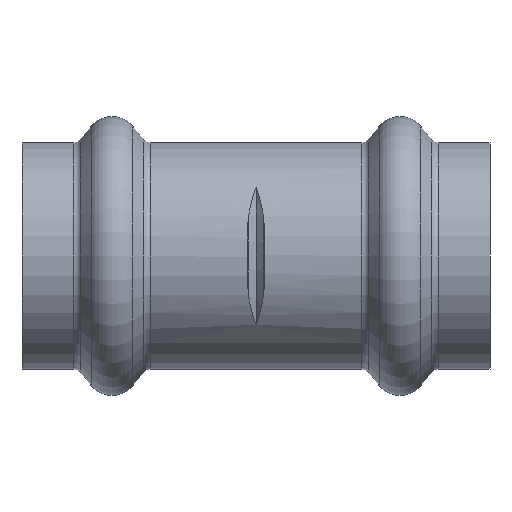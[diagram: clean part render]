
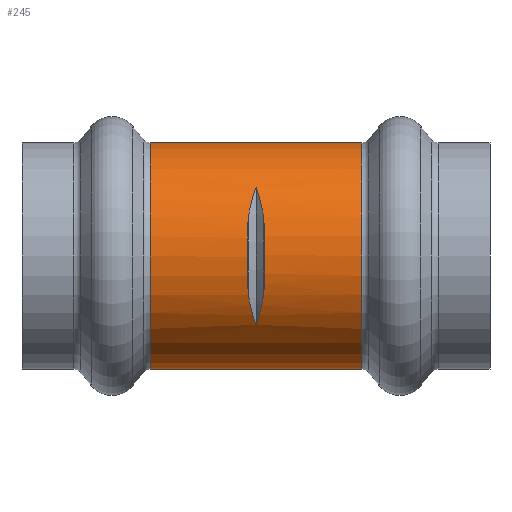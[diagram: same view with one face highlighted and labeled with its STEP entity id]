
A CAD part, front view. The second image highlights one B-rep face of the part: STEP entity #245.
In plain terms, the highlighted cylindrical face has radius 12.6 mm (diameter 25.2 mm), a partial arc.
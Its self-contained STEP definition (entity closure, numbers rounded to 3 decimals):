
#10 = CARTESIAN_POINT ( 'NONE',  ( -0.369, -10.784, 6.641 ) ) ;
#19 = CARTESIAN_POINT ( 'NONE',  ( 0., -10.009, 7.654 ) ) ;
#36 = CARTESIAN_POINT ( 'NONE',  ( 0., -10.009, 7.654 ) ) ;
#56 = AXIS2_PLACEMENT_3D ( 'NONE', #1790, #1653, #310 ) ;
#109 = VERTEX_POINT ( 'NONE', #910 ) ;
#123 = CARTESIAN_POINT ( 'NONE',  ( -16.83, 0., -12.6 ) ) ;
#132 = CARTESIAN_POINT ( 'NONE',  ( 0.859, -11.849, -4.286 ) ) ;
#180 = CARTESIAN_POINT ( 'NONE',  ( 0.369, -10.784, -6.641 ) ) ;
#184 = EDGE_CURVE ( 'NONE', #109, #374, #1209, .T. ) ;
#188 = B_SPLINE_CURVE_WITH_KNOTS ( 'NONE', 3,
 ( #805, #327, #1937, #582 ),
 .UNSPECIFIED., .F., .F.,
 ( 4, 4 ),
 ( 0., 0.004 ),
 .UNSPECIFIED. ) ;
#202 = VERTEX_POINT ( 'NONE', #132 ) ;
#204 = CARTESIAN_POINT ( 'NONE',  ( -0.369, -10.784, -6.641 ) ) ;
#231 = CARTESIAN_POINT ( 'NONE',  ( 11.736, 0., 0. ) ) ;
#245 = ADVANCED_FACE ( 'NONE', ( #598, #1400 ), #1698, .T. ) ;
#249 = ORIENTED_EDGE ( 'NONE', *, *, #764, .T. ) ;
#252 = CARTESIAN_POINT ( 'NONE',  ( -16.83, 0., 12.6 ) ) ;
#267 = LINE ( 'NONE', #252, #1071 ) ;
#310 = DIRECTION ( 'NONE',  ( 0., 0., 1. ) ) ;
#323 = CARTESIAN_POINT ( 'NONE',  ( 11.736, 0., 12.6 ) ) ;
#326 = EDGE_LOOP ( 'NONE', ( #938, #1275, #249, #873 ) ) ;
#327 = CARTESIAN_POINT ( 'NONE',  ( 0.369, -10.784, 6.641 ) ) ;
#356 = CARTESIAN_POINT ( 'NONE',  ( 0.859, -11.849, -4.286 ) ) ;
#374 = VERTEX_POINT ( 'NONE', #1841 ) ;
#391 = DIRECTION ( 'NONE',  ( 0., 0., 1. ) ) ;
#394 = CARTESIAN_POINT ( 'NONE',  ( -0.859, -11.849, 4.286 ) ) ;
#454 = CARTESIAN_POINT ( 'NONE',  ( -0.654, -11.402, -5.521 ) ) ;
#468 = CIRCLE ( 'NONE', #1153, 12.6 ) ;
#495 = B_SPLINE_CURVE_WITH_KNOTS ( 'NONE', 3,
 ( #356, #999, #180, #503 ),
 .UNSPECIFIED., .F., .F.,
 ( 4, 4 ),
 ( 0., 0.004 ),
 .UNSPECIFIED. ) ;
#503 = CARTESIAN_POINT ( 'NONE',  ( 0., -10.009, -7.654 ) ) ;
#527 = CARTESIAN_POINT ( 'NONE',  ( -11.736, 0., 12.6 ) ) ;
#529 = CARTESIAN_POINT ( 'NONE',  ( -0.941, -12.285, 2.892 ) ) ;
#539 = CARTESIAN_POINT ( 'NONE',  ( -0.988, -12.535, 1.465 ) ) ;
#553 = ORIENTED_EDGE ( 'NONE', *, *, #1460, .T. ) ;
#578 = CARTESIAN_POINT ( 'NONE',  ( 1., -12.6, 0.362 ) ) ;
#582 = CARTESIAN_POINT ( 'NONE',  ( 0.859, -11.849, 4.286 ) ) ;
#598 = FACE_OUTER_BOUND ( 'NONE', #326, .T. ) ;
#613 = CARTESIAN_POINT ( 'NONE',  ( -0.906, -12.099, 3.595 ) ) ;
#618 = CARTESIAN_POINT ( 'NONE',  ( -1., -12.6, -0.362 ) ) ;
#627 = CARTESIAN_POINT ( 'NONE',  ( -0.859, -11.849, 4.286 ) ) ;
#659 = EDGE_CURVE ( 'NONE', #109, #1764, #468, .T. ) ;
#661 = CARTESIAN_POINT ( 'NONE',  ( -0.976, -12.474, -1.818 ) ) ;
#669 = CARTESIAN_POINT ( 'NONE',  ( -0.941, -12.285, -2.891 ) ) ;
#719 = CARTESIAN_POINT ( 'NONE',  ( -0.859, -11.849, -4.286 ) ) ;
#729 = ORIENTED_EDGE ( 'NONE', *, *, #1143, .T. ) ;
#745 = B_SPLINE_CURVE_WITH_KNOTS ( 'NONE', 3,
 ( #1049, #204, #454, #1058 ),
 .UNSPECIFIED., .F., .F.,
 ( 4, 4 ),
 ( 0., 0.004 ),
 .UNSPECIFIED. ) ;
#750 = VECTOR ( 'NONE', #1223, 1000. ) ;
#754 = CARTESIAN_POINT ( 'NONE',  ( -0.859, -11.849, 4.286 ) ) ;
#764 = EDGE_CURVE ( 'NONE', #1764, #865, #267, .T. ) ;
#793 = CARTESIAN_POINT ( 'NONE',  ( -0.906, -12.099, -3.594 ) ) ;
#799 = VERTEX_POINT ( 'NONE', #754 ) ;
#805 = CARTESIAN_POINT ( 'NONE',  ( 0., -10.009, 7.654 ) ) ;
#825 = ORIENTED_EDGE ( 'NONE', *, *, #1042, .T. ) ;
#865 = VERTEX_POINT ( 'NONE', #527 ) ;
#873 = ORIENTED_EDGE ( 'NONE', *, *, #1898, .T. ) ;
#900 = CARTESIAN_POINT ( 'NONE',  ( 1., -12.6, -0.741 ) ) ;
#904 = DIRECTION ( 'NONE',  ( 0., 0., -1. ) ) ;
#910 = CARTESIAN_POINT ( 'NONE',  ( 11.736, 0., -12.6 ) ) ;
#919 = ORIENTED_EDGE ( 'NONE', *, *, #1374, .T. ) ;
#938 = ORIENTED_EDGE ( 'NONE', *, *, #184, .F. ) ;
#952 = VERTEX_POINT ( 'NONE', #719 ) ;
#999 = CARTESIAN_POINT ( 'NONE',  ( 0.654, -11.402, -5.521 ) ) ;
#1012 = CARTESIAN_POINT ( 'NONE',  ( 0., -10.009, -7.654 ) ) ;
#1025 = B_SPLINE_CURVE_WITH_KNOTS ( 'NONE', 3,
 ( #1066, #1214, #1595, #1928, #1785, #1085, #578, #900, #1458, #1047, #1040, #1342 ),
 .UNSPECIFIED., .F., .F.,
 ( 4, 2, 2, 2, 2, 4 ),
 ( 0., 0.002, 0.003, 0.004, 0.007, 0.009 ),
 .UNSPECIFIED. ) ;
#1040 = CARTESIAN_POINT ( 'NONE',  ( 0.906, -12.099, -3.595 ) ) ;
#1042 = EDGE_CURVE ( 'NONE', #1160, #202, #1025, .T. ) ;
#1047 = CARTESIAN_POINT ( 'NONE',  ( 0.941, -12.285, -2.892 ) ) ;
#1049 = CARTESIAN_POINT ( 'NONE',  ( 0., -10.009, -7.654 ) ) ;
#1058 = CARTESIAN_POINT ( 'NONE',  ( -0.859, -11.849, -4.286 ) ) ;
#1066 = CARTESIAN_POINT ( 'NONE',  ( 0.859, -11.849, 4.286 ) ) ;
#1071 = VECTOR ( 'NONE', #1775, 1000. ) ;
#1085 = CARTESIAN_POINT ( 'NONE',  ( 0.997, -12.584, 0.73 ) ) ;
#1101 = CARTESIAN_POINT ( 'NONE',  ( 0.859, -11.849, 4.286 ) ) ;
#1104 = CARTESIAN_POINT ( 'NONE',  ( -0.859, -11.849, -4.286 ) ) ;
#1143 = EDGE_CURVE ( 'NONE', #202, #1256, #495, .T. ) ;
#1153 = AXIS2_PLACEMENT_3D ( 'NONE', #231, #1328, #391 ) ;
#1160 = VERTEX_POINT ( 'NONE', #1101 ) ;
#1191 = ORIENTED_EDGE ( 'NONE', *, *, #1768, .T. ) ;
#1208 = DIRECTION ( 'NONE',  ( 1., 0., 0. ) ) ;
#1209 = LINE ( 'NONE', #123, #750 ) ;
#1214 = CARTESIAN_POINT ( 'NONE',  ( 0.906, -12.099, 3.594 ) ) ;
#1223 = DIRECTION ( 'NONE',  ( -1., 0., 0. ) ) ;
#1256 = VERTEX_POINT ( 'NONE', #1012 ) ;
#1275 = ORIENTED_EDGE ( 'NONE', *, *, #659, .T. ) ;
#1324 = EDGE_LOOP ( 'NONE', ( #825, #729, #919, #553, #1473, #1191 ) ) ;
#1328 = DIRECTION ( 'NONE',  ( -1., 0., 0. ) ) ;
#1342 = CARTESIAN_POINT ( 'NONE',  ( 0.859, -11.849, -4.286 ) ) ;
#1374 = EDGE_CURVE ( 'NONE', #1256, #952, #745, .T. ) ;
#1394 = CARTESIAN_POINT ( 'NONE',  ( -0.997, -12.584, -0.73 ) ) ;
#1400 = FACE_BOUND ( 'NONE', #1324, .T. ) ;
#1409 = CARTESIAN_POINT ( 'NONE',  ( -1., -12.6, 0.741 ) ) ;
#1449 = CARTESIAN_POINT ( 'NONE',  ( -11.736, 0., 0. ) ) ;
#1458 = CARTESIAN_POINT ( 'NONE',  ( 0.988, -12.535, -1.465 ) ) ;
#1460 = EDGE_CURVE ( 'NONE', #952, #799, #1474, .T. ) ;
#1473 = ORIENTED_EDGE ( 'NONE', *, *, #1703, .T. ) ;
#1474 = B_SPLINE_CURVE_WITH_KNOTS ( 'NONE', 3,
 ( #1104, #793, #669, #661, #1763, #1394, #618, #1409, #539, #529, #613, #627 ),
 .UNSPECIFIED., .F., .F.,
 ( 4, 2, 2, 2, 2, 4 ),
 ( 0., 0.002, 0.003, 0.004, 0.007, 0.009 ),
 .UNSPECIFIED. ) ;
#1479 = CARTESIAN_POINT ( 'NONE',  ( -0.654, -11.402, 5.521 ) ) ;
#1511 = VERTEX_POINT ( 'NONE', #36 ) ;
#1573 = B_SPLINE_CURVE_WITH_KNOTS ( 'NONE', 3,
 ( #394, #1479, #10, #19 ),
 .UNSPECIFIED., .F., .F.,
 ( 4, 4 ),
 ( 0., 0.004 ),
 .UNSPECIFIED. ) ;
#1595 = CARTESIAN_POINT ( 'NONE',  ( 0.941, -12.285, 2.891 ) ) ;
#1653 = DIRECTION ( 'NONE',  ( -1., 0., 0. ) ) ;
#1698 = CYLINDRICAL_SURFACE ( 'NONE', #56, 12.6 ) ;
#1703 = EDGE_CURVE ( 'NONE', #799, #1511, #1573, .T. ) ;
#1708 = AXIS2_PLACEMENT_3D ( 'NONE', #1449, #1208, #904 ) ;
#1763 = CARTESIAN_POINT ( 'NONE',  ( -0.985, -12.521, -1.457 ) ) ;
#1764 = VERTEX_POINT ( 'NONE', #323 ) ;
#1768 = EDGE_CURVE ( 'NONE', #1511, #1160, #188, .T. ) ;
#1775 = DIRECTION ( 'NONE',  ( -1., 0., 0. ) ) ;
#1785 = CARTESIAN_POINT ( 'NONE',  ( 0.985, -12.521, 1.457 ) ) ;
#1790 = CARTESIAN_POINT ( 'NONE',  ( -16.83, 0., 0. ) ) ;
#1841 = CARTESIAN_POINT ( 'NONE',  ( -11.736, 0., -12.6 ) ) ;
#1860 = CIRCLE ( 'NONE', #1708, 12.6 ) ;
#1898 = EDGE_CURVE ( 'NONE', #865, #374, #1860, .T. ) ;
#1928 = CARTESIAN_POINT ( 'NONE',  ( 0.976, -12.474, 1.818 ) ) ;
#1937 = CARTESIAN_POINT ( 'NONE',  ( 0.654, -11.402, 5.521 ) ) ;
